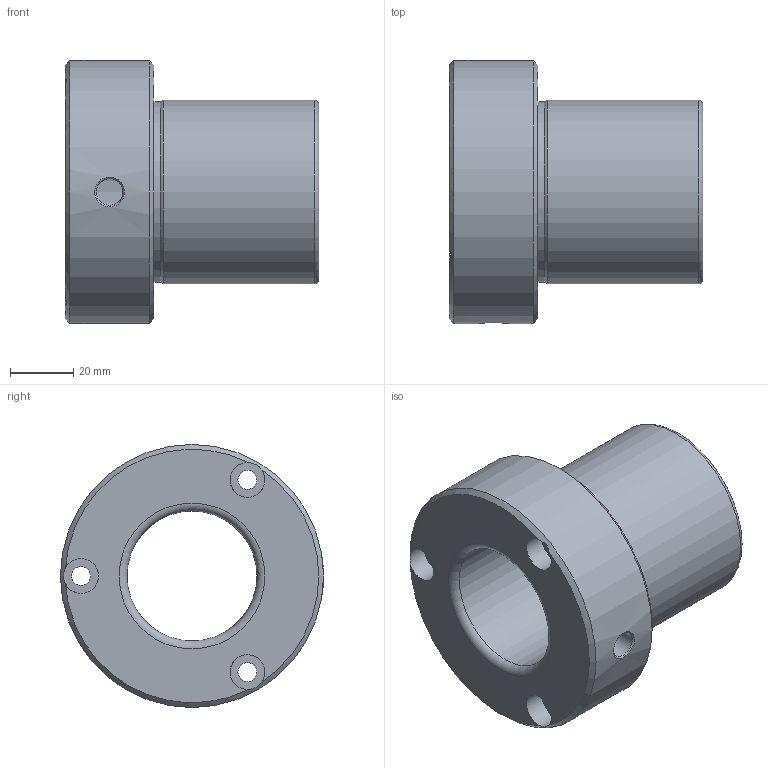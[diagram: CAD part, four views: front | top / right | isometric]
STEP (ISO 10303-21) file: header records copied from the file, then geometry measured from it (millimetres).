
FILE_DESCRIPTION(/* description */ ('Impex Ready, www.impex-ready.pl'),/* implementation_level */ '2;1');
FILE_NAME(/* name */ 'C:\Users\VIKKY\Nextcloud\SM\projekt 10 - części na stronę internetową\Pliki_3D_new\289 Tuleje B5\289_B5_STEP\B541.ipt.step',/* time_stamp */ '2021-12-21T12:37:24+01:00',/* author */ ('SM'),/* organization */ (''),/* preprocessor_version */ 'ST-DEVELOPER v18.1',/* originating_system */ 'Autodesk Inventor 2021',/* authorisation */ '');
FILE_SCHEMA (('AUTOMOTIVE_DESIGN { 1 0 10303 214 3 1 1 }'));
Length unit declared in the file: millimetre
Products named in the file (1): B541
Bounding box: 80 x 83 x 83 mm (x, y, z)
Volume: 177230.3 mm3; surface area: 36729.2 mm2
Topology: 1 solids, 1 shells, 24 faces, 66 edges, 43 vertices
Faces by surface type: cylinder 11, plane 6, torus 3, cone 3, bspline 1
Full cylindrical faces by diameter (mm): 6 x3, 8.376 x1, 11 x3, 41 x1, 57 x1, 58 x1, 83 x1
Entity records: 1084 total; most frequent: CARTESIAN_POINT 356, DIRECTION 141, ORIENTED_EDGE 132, EDGE_CURVE 66, AXIS2_PLACEMENT_3D 62, VERTEX_POINT 43, CIRCLE 38, EDGE_LOOP 33
